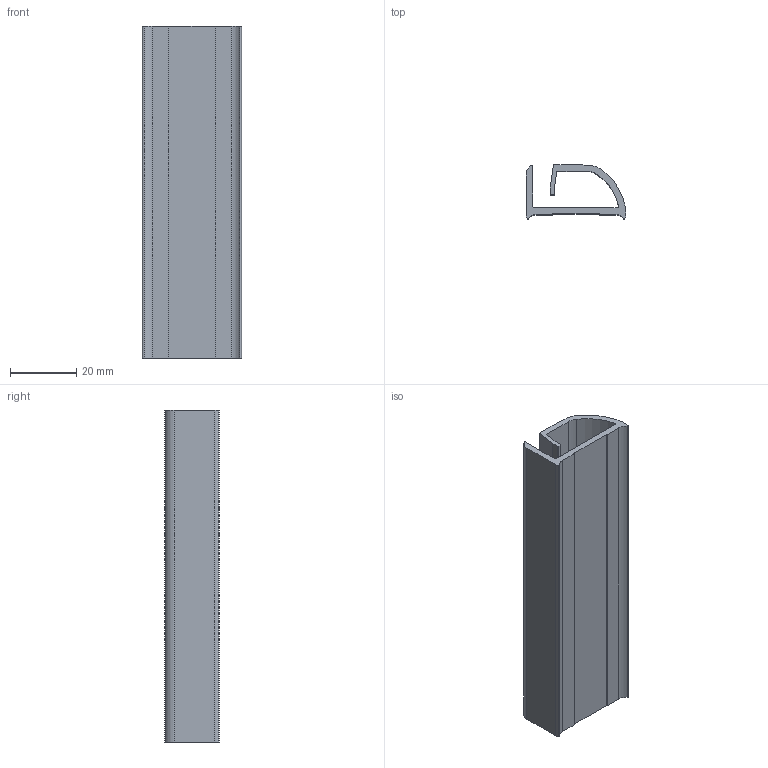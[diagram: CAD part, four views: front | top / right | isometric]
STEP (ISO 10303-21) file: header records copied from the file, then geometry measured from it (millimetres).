
FILE_DESCRIPTION (( 'STEP AP203' ), '1' );
FILE_NAME ('013.030.016.STEP', '2020-09-18T14:13:23', ( '' ), ( '' ), 'SwSTEP 2.0', 'SolidWorks 2018', '' );
FILE_SCHEMA (( 'CONFIG_CONTROL_DESIGN' ));
Length unit declared in the file: millimetre
Products named in the file (1): 013.030.016
Bounding box: 30 x 16.3 x 100 mm (x, y, z)
Volume: 14520.8 mm3; surface area: 16288.2 mm2
Topology: 1 solids, 1 shells, 34 faces, 96 edges, 64 vertices
Faces by surface type: plane 18, cylinder 14, bspline 2
Entity records: 1209 total; most frequent: CARTESIAN_POINT 233, ORIENTED_EDGE 192, DIRECTION 186, EDGE_CURVE 96, VERTEX_POINT 64, VECTOR 64, LINE 64, AXIS2_PLACEMENT_3D 61
